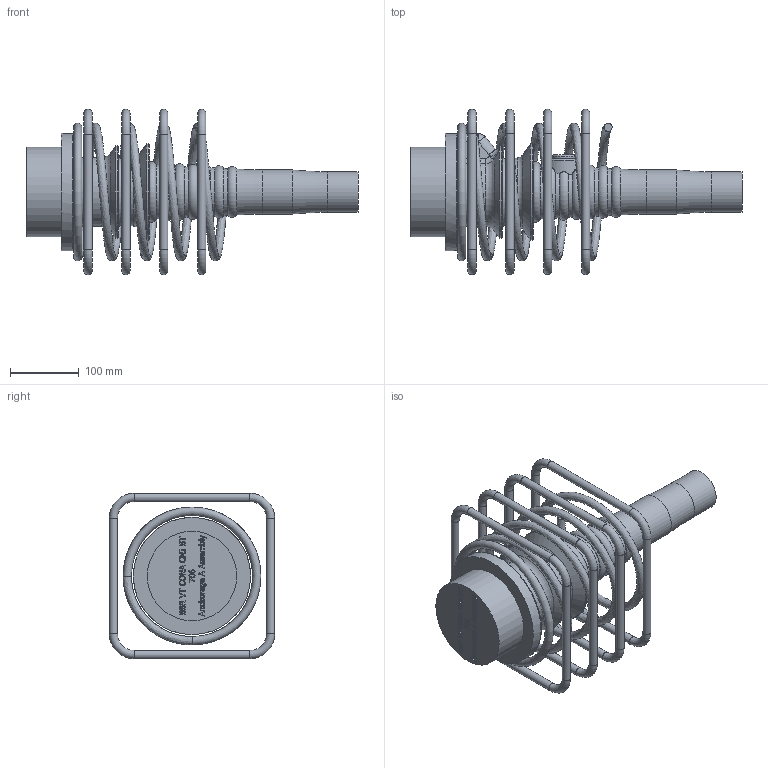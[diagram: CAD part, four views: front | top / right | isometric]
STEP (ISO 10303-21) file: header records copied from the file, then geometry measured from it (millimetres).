
FILE_DESCRIPTION(/* description */ (''),/* implementation_level */ '2;1');
FILE_NAME(/* name */ 'BBR VT CONA CMI BT 706_Anchorage A Assembly_CS-34,28.stp',/* time_stamp */ '2025-04-28T13:54:46+02:00',/* author */ ('tk'),/* organization */ (''),/* preprocessor_version */ 'ST-DEVELOPER v20',/* originating_system */ 'Autodesk Inventor 2024',/* authorisation */ '');
FILE_SCHEMA (('AUTOMOTIVE_DESIGN { 1 0 10303 214 3 1 1 }'));
Length unit declared in the file: millimetre
Products named in the file (1): BBR VT CONA CMI BT 706_Anchorage A Assembly_CS-34,28
Bounding box: 481.84 x 240 x 240 mm (x, y, z)
Volume: 4022408 mm3; surface area: 443368.7 mm2
Topology: 6 solids, 6 shells, 723 faces, 1918 edges, 1251 vertices
Faces by surface type: plane 314, bspline 300, torus 55, cylinder 33, sphere 12, cone 9
Full cylindrical faces by diameter (mm): 12 x16, 34 x1, 57 x1, 59 x1, 64 x1, 130 x1, 133.801 x1, 139.387 x1, 170 x1
Entity records: 28352 total; most frequent: CARTESIAN_POINT 11463, ORIENTED_EDGE 3824, DIRECTION 2421, EDGE_CURVE 1912, VERTEX_POINT 1251, LINE 1059, VECTOR 1059, EDGE_LOOP 781
